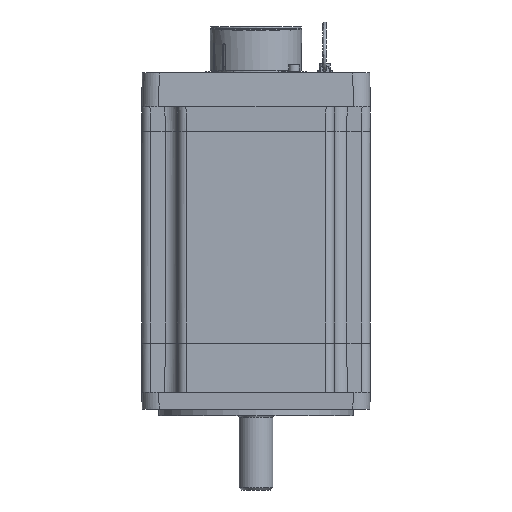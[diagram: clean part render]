
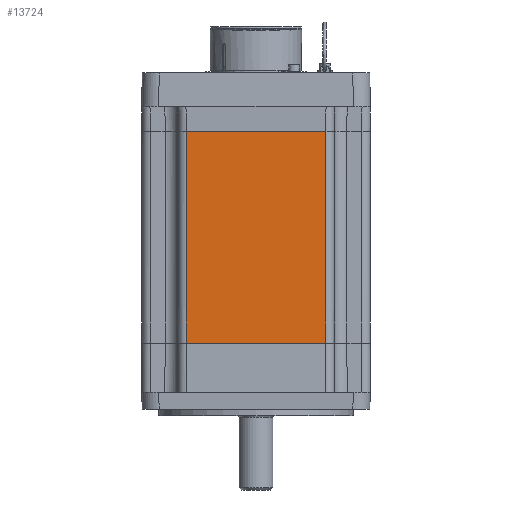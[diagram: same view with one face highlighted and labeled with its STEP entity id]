
A CAD part, front view. The second image highlights one B-rep face of the part: STEP entity #13724.
In plain terms, the highlighted planar face has unit normal (0, -1, 0).
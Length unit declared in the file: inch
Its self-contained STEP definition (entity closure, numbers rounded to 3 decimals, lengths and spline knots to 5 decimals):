
#13310=CARTESIAN_POINT('',(1.025,-1.68,0.725));
#13311=VERTEX_POINT('',#13310);
#13319=CARTESIAN_POINT('',(-1.025,-1.68,0.725));
#13320=VERTEX_POINT('',#13319);
#13321=CARTESIAN_POINT('',(1.025,-1.68,0.725));
#13322=DIRECTION('',(-1.0,0.0,0.0));
#13323=VECTOR('',#13322,2.05);
#13324=LINE('',#13321,#13323);
#13325=EDGE_CURVE('',#13311,#13320,#13324,.T.);
#13681=CARTESIAN_POINT('',(1.025,-1.68,3.845));
#13682=VERTEX_POINT('',#13681);
#13690=CARTESIAN_POINT('',(1.025,-1.68,3.845));
#13691=DIRECTION('',(0.0,0.0,-1.0));
#13692=VECTOR('',#13691,3.12);
#13693=LINE('',#13690,#13692);
#13694=EDGE_CURVE('',#13682,#13311,#13693,.T.);
#13701=CARTESIAN_POINT('',(1.15,-1.68,0.725));
#13702=DIRECTION('',(0.0,-1.0,0.0));
#13703=DIRECTION('',(0.0,0.0,-1.0));
#13704=AXIS2_PLACEMENT_3D('',#13701,#13702,#13703);
#13705=PLANE('',#13704);
#13706=CARTESIAN_POINT('',(-1.025,-1.68,3.845));
#13707=VERTEX_POINT('',#13706);
#13708=CARTESIAN_POINT('',(-1.025,-1.68,0.725));
#13709=DIRECTION('',(0.0,0.0,1.0));
#13710=VECTOR('',#13709,3.12);
#13711=LINE('',#13708,#13710);
#13712=EDGE_CURVE('',#13320,#13707,#13711,.T.);
#13713=ORIENTED_EDGE('',*,*,#13712,.F.);
#13714=ORIENTED_EDGE('',*,*,#13325,.F.);
#13715=ORIENTED_EDGE('',*,*,#13694,.F.);
#13716=CARTESIAN_POINT('',(1.025,-1.68,3.845));
#13717=DIRECTION('',(-1.0,0.0,0.0));
#13718=VECTOR('',#13717,2.05);
#13719=LINE('',#13716,#13718);
#13720=EDGE_CURVE('',#13682,#13707,#13719,.T.);
#13721=ORIENTED_EDGE('',*,*,#13720,.T.);
#13722=EDGE_LOOP('',(#13713,#13714,#13715,#13721));
#13723=FACE_OUTER_BOUND('',#13722,.T.);
#13724=ADVANCED_FACE('',(#13723),#13705,.T.);
